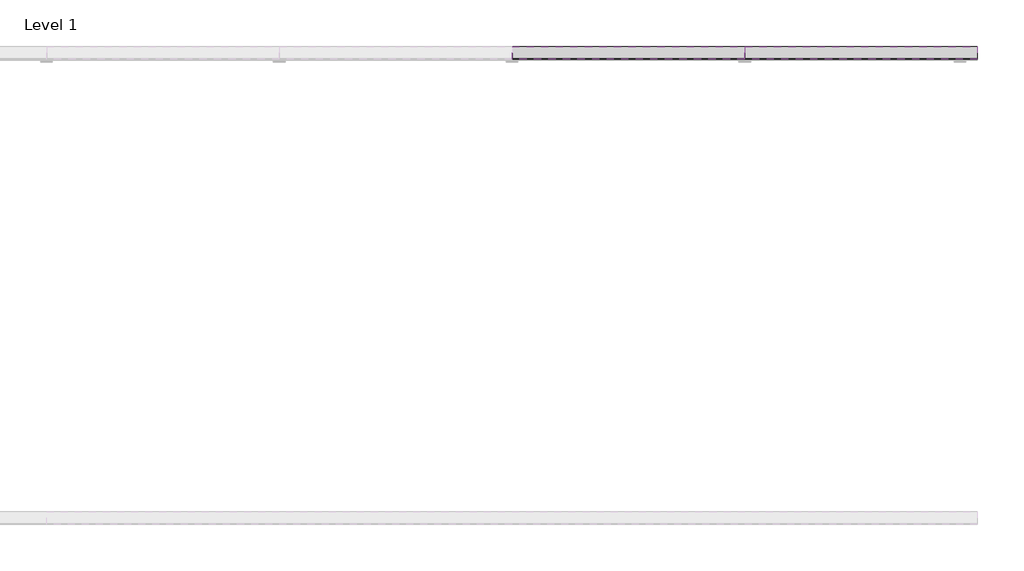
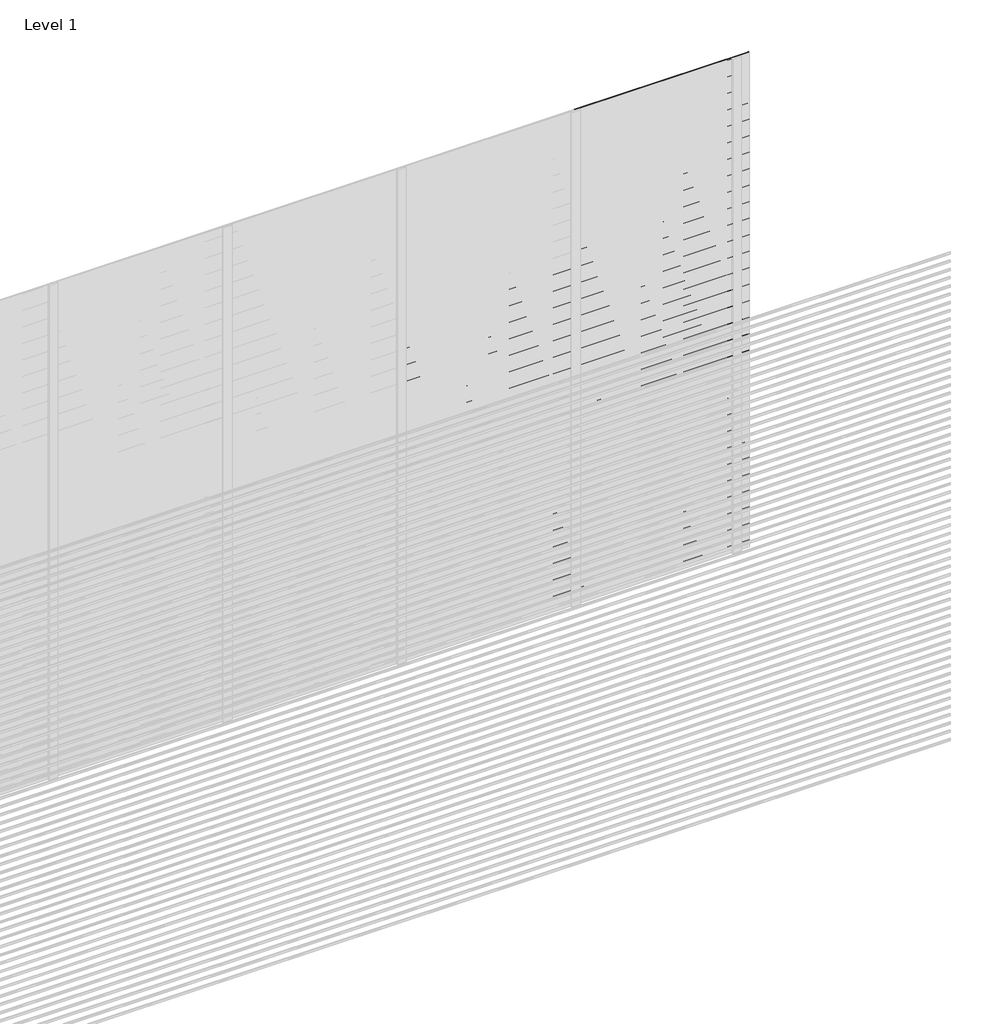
# One storey, part 18 of 18: 102 proxies.
"""IFC4 building model written with IfcOpenShell, lengths in millimetres."""

from ifc_helpers import new_model, si_unit, frame, origin, place, context, project, spatial, polyline, outline, extrude, element, save

model = new_model("IFC4")

# Units and contexts
model_context = context("Model", 3, world=origin())
ifc_project = project(units=[si_unit("LENGTHUNIT", "METRE", prefix="MILLI")], contexts=[model_context])

# Site, building, storey
site = spatial("IfcSite", under=ifc_project)
building = spatial("IfcBuilding", under=site)
storey = spatial("IfcBuildingStorey", under=building, Name="Level 1", Elevation=0.0)

# Proxies
placement = place(None, origin())
element("IfcBuildingElementProxy", 1, Name="Wall Sweeps", at=placement, inside=storey, context=model_context, shape_type="SweptSolid", body=[
    extrude(outline(polyline([(5.0, 2100.0), (5.0, 2091.0744429), (57.0, 2056.0), (57.0, 2050.0), (3.0, 2086.4234599), (3.0, 2100.0), (5.0, 2100.0)])), frame((4000.0, 0.0, 0.0), z_axis=(1.0, 0.0, 0.0), x_axis=(0.0, 1.0, 0.0)), (0.0, 0.0, 1.0), 1000.0),
])
element("IfcBuildingElementProxy", 2, Name="Wall Sweeps", at=placement, inside=storey, context=model_context, shape_type="SweptSolid", body=[
    extrude(outline(polyline([(5.0, 2050.0), (5.0, 2041.0744429), (57.0, 2006.0), (57.0, 2000.0), (3.0, 2036.4234599), (3.0, 2050.0), (5.0, 2050.0)])), frame((4000.0, 0.0, 0.0), z_axis=(1.0, 0.0, 0.0), x_axis=(0.0, 1.0, 0.0)), (0.0, 0.0, 1.0), 1000.0),
])
element("IfcBuildingElementProxy", 3, Name="Wall Sweeps", at=placement, inside=storey, context=model_context, shape_type="SweptSolid", body=[
    extrude(outline(polyline([(5.0, 2000.0), (5.0, 1991.0744429), (57.0, 1956.0), (57.0, 1950.0), (3.0, 1986.4234599), (3.0, 2000.0), (5.0, 2000.0)])), frame((4000.0, 0.0, 0.0), z_axis=(1.0, 0.0, 0.0), x_axis=(0.0, 1.0, 0.0)), (0.0, 0.0, 1.0), 1000.0),
])
element("IfcBuildingElementProxy", 4, Name="Wall Sweeps", at=placement, inside=storey, context=model_context, shape_type="SweptSolid", body=[
    extrude(outline(polyline([(5.0, 1950.0), (5.0, 1941.0744429), (57.0, 1906.0), (57.0, 1900.0), (3.0, 1936.4234599), (3.0, 1950.0), (5.0, 1950.0)])), frame((4000.0, 0.0, 0.0), z_axis=(1.0, 0.0, 0.0), x_axis=(0.0, 1.0, 0.0)), (0.0, 0.0, 1.0), 1000.0),
])
element("IfcBuildingElementProxy", 5, Name="Wall Sweeps", at=placement, inside=storey, context=model_context, shape_type="SweptSolid", body=[
    extrude(outline(polyline([(5.0, 1900.0), (5.0, 1891.0744429), (57.0, 1856.0), (57.0, 1850.0), (3.0, 1886.4234599), (3.0, 1900.0), (5.0, 1900.0)])), frame((4000.0, 0.0, 0.0), z_axis=(1.0, 0.0, 0.0), x_axis=(0.0, 1.0, 0.0)), (0.0, 0.0, 1.0), 1000.0),
])
element("IfcBuildingElementProxy", 6, Name="Wall Sweeps", at=placement, inside=storey, context=model_context, shape_type="SweptSolid", body=[
    extrude(outline(polyline([(5.0, 1850.0), (5.0, 1841.0744429), (57.0, 1806.0), (57.0, 1800.0), (3.0, 1836.4234599), (3.0, 1850.0), (5.0, 1850.0)])), frame((4000.0, 0.0, 0.0), z_axis=(1.0, 0.0, 0.0), x_axis=(0.0, 1.0, 0.0)), (0.0, 0.0, 1.0), 1000.0),
])
element("IfcBuildingElementProxy", 7, Name="Wall Sweeps", at=placement, inside=storey, context=model_context, shape_type="SweptSolid", body=[
    extrude(outline(polyline([(5.0, 1800.0), (5.0, 1791.0744429), (57.0, 1756.0), (57.0, 1750.0), (3.0, 1786.4234599), (3.0, 1800.0), (5.0, 1800.0)])), frame((4000.0, 0.0, 0.0), z_axis=(1.0, 0.0, 0.0), x_axis=(0.0, 1.0, 0.0)), (0.0, 0.0, 1.0), 1000.0),
])
element("IfcBuildingElementProxy", 8, Name="Wall Sweeps", at=placement, inside=storey, context=model_context, shape_type="SweptSolid", body=[
    extrude(outline(polyline([(5.0, 1750.0), (5.0, 1741.0744429), (57.0, 1706.0), (57.0, 1700.0), (3.0, 1736.4234599), (3.0, 1750.0), (5.0, 1750.0)])), frame((4000.0, 0.0, 0.0), z_axis=(1.0, 0.0, 0.0), x_axis=(0.0, 1.0, 0.0)), (0.0, 0.0, 1.0), 1000.0),
])
element("IfcBuildingElementProxy", 9, Name="Wall Sweeps", at=placement, inside=storey, context=model_context, shape_type="SweptSolid", body=[
    extrude(outline(polyline([(5.0, 1700.0), (5.0, 1691.0744429), (57.0, 1656.0), (57.0, 1650.0), (3.0, 1686.4234599), (3.0, 1700.0), (5.0, 1700.0)])), frame((4000.0, 0.0, 0.0), z_axis=(1.0, 0.0, 0.0), x_axis=(0.0, 1.0, 0.0)), (0.0, 0.0, 1.0), 1000.0),
])
element("IfcBuildingElementProxy", 10, Name="Wall Sweeps", at=placement, inside=storey, context=model_context, shape_type="SweptSolid", body=[
    extrude(outline(polyline([(5.0, 1650.0), (5.0, 1641.0744429), (57.0, 1606.0), (57.0, 1600.0), (3.0, 1636.4234599), (3.0, 1650.0), (5.0, 1650.0)])), frame((4000.0, 0.0, 0.0), z_axis=(1.0, 0.0, 0.0), x_axis=(0.0, 1.0, 0.0)), (0.0, 0.0, 1.0), 1000.0),
])
element("IfcBuildingElementProxy", 11, Name="Wall Sweeps", at=placement, inside=storey, context=model_context, shape_type="SweptSolid", body=[
    extrude(outline(polyline([(5.0, 1600.0), (5.0, 1591.0744429), (57.0, 1556.0), (57.0, 1550.0), (3.0, 1586.4234599), (3.0, 1600.0), (5.0, 1600.0)])), frame((4000.0, 0.0, 0.0), z_axis=(1.0, 0.0, 0.0), x_axis=(0.0, 1.0, 0.0)), (0.0, 0.0, 1.0), 1000.0),
])
element("IfcBuildingElementProxy", 12, Name="Wall Sweeps", at=placement, inside=storey, context=model_context, shape_type="SweptSolid", body=[
    extrude(outline(polyline([(5.0, 1550.0), (5.0, 1541.0744429), (57.0, 1506.0), (57.0, 1500.0), (3.0, 1536.4234599), (3.0, 1550.0), (5.0, 1550.0)])), frame((4000.0, 0.0, 0.0), z_axis=(1.0, 0.0, 0.0), x_axis=(0.0, 1.0, 0.0)), (0.0, 0.0, 1.0), 1000.0),
])
element("IfcBuildingElementProxy", 13, Name="Wall Sweeps", at=placement, inside=storey, context=model_context, shape_type="SweptSolid", body=[
    extrude(outline(polyline([(5.0, 1500.0), (5.0, 1491.0744429), (57.0, 1456.0), (57.0, 1450.0), (3.0, 1486.4234599), (3.0, 1500.0), (5.0, 1500.0)])), frame((4000.0, 0.0, 0.0), z_axis=(1.0, 0.0, 0.0), x_axis=(0.0, 1.0, 0.0)), (0.0, 0.0, 1.0), 1000.0),
])
element("IfcBuildingElementProxy", 14, Name="Wall Sweeps", at=placement, inside=storey, context=model_context, shape_type="SweptSolid", body=[
    extrude(outline(polyline([(5.0, 1450.0), (5.0, 1441.0744429), (57.0, 1406.0), (57.0, 1400.0), (3.0, 1436.4234599), (3.0, 1450.0), (5.0, 1450.0)])), frame((4000.0, 0.0, 0.0), z_axis=(1.0, 0.0, 0.0), x_axis=(0.0, 1.0, 0.0)), (0.0, 0.0, 1.0), 1000.0),
])
element("IfcBuildingElementProxy", 15, Name="Wall Sweeps", at=placement, inside=storey, context=model_context, shape_type="SweptSolid", body=[
    extrude(outline(polyline([(5.0, 1400.0), (5.0, 1391.0744429), (57.0, 1356.0), (57.0, 1350.0), (3.0, 1386.4234599), (3.0, 1400.0), (5.0, 1400.0)])), frame((4000.0, 0.0, 0.0), z_axis=(1.0, 0.0, 0.0), x_axis=(0.0, 1.0, 0.0)), (0.0, 0.0, 1.0), 1000.0),
])
element("IfcBuildingElementProxy", 16, Name="Wall Sweeps", at=placement, inside=storey, context=model_context, shape_type="SweptSolid", body=[
    extrude(outline(polyline([(5.0, 1350.0), (5.0, 1341.0744429), (57.0, 1306.0), (57.0, 1300.0), (3.0, 1336.4234599), (3.0, 1350.0), (5.0, 1350.0)])), frame((4000.0, 0.0, 0.0), z_axis=(1.0, 0.0, 0.0), x_axis=(0.0, 1.0, 0.0)), (0.0, 0.0, 1.0), 1000.0),
])
element("IfcBuildingElementProxy", 17, Name="Wall Sweeps", at=placement, inside=storey, context=model_context, shape_type="SweptSolid", body=[
    extrude(outline(polyline([(5.0, 1300.0), (5.0, 1291.0744429), (57.0, 1256.0), (57.0, 1250.0), (3.0, 1286.4234599), (3.0, 1300.0), (5.0, 1300.0)])), frame((4000.0, 0.0, 0.0), z_axis=(1.0, 0.0, 0.0), x_axis=(0.0, 1.0, 0.0)), (0.0, 0.0, 1.0), 1000.0),
])
element("IfcBuildingElementProxy", 18, Name="Wall Sweeps", at=placement, inside=storey, context=model_context, shape_type="SweptSolid", body=[
    extrude(outline(polyline([(5.0, 1250.0), (5.0, 1241.0744429), (57.0, 1206.0), (57.0, 1200.0), (3.0, 1236.4234599), (3.0, 1250.0), (5.0, 1250.0)])), frame((4000.0, 0.0, 0.0), z_axis=(1.0, 0.0, 0.0), x_axis=(0.0, 1.0, 0.0)), (0.0, 0.0, 1.0), 1000.0),
])
element("IfcBuildingElementProxy", 19, Name="Wall Sweeps", at=placement, inside=storey, context=model_context, shape_type="SweptSolid", body=[
    extrude(outline(polyline([(5.0, 1200.0), (5.0, 1191.0744429), (57.0, 1156.0), (57.0, 1150.0), (3.0, 1186.4234599), (3.0, 1200.0), (5.0, 1200.0)])), frame((4000.0, 0.0, 0.0), z_axis=(1.0, 0.0, 0.0), x_axis=(0.0, 1.0, 0.0)), (0.0, 0.0, 1.0), 1000.0),
])
element("IfcBuildingElementProxy", 20, Name="Wall Sweeps", at=placement, inside=storey, context=model_context, shape_type="SweptSolid", body=[
    extrude(outline(polyline([(5.0, 1150.0), (5.0, 1141.0744429), (57.0, 1106.0), (57.0, 1100.0), (3.0, 1136.4234599), (3.0, 1150.0), (5.0, 1150.0)])), frame((4000.0, 0.0, 0.0), z_axis=(1.0, 0.0, 0.0), x_axis=(0.0, 1.0, 0.0)), (0.0, 0.0, 1.0), 1000.0),
])
element("IfcBuildingElementProxy", 21, Name="Wall Sweeps", at=placement, inside=storey, context=model_context, shape_type="SweptSolid", body=[
    extrude(outline(polyline([(5.0, 1100.0), (5.0, 1091.0744429), (57.0, 1056.0), (57.0, 1050.0), (3.0, 1086.4234599), (3.0, 1100.0), (5.0, 1100.0)])), frame((4000.0, 0.0, 0.0), z_axis=(1.0, 0.0, 0.0), x_axis=(0.0, 1.0, 0.0)), (0.0, 0.0, 1.0), 1000.0),
])
element("IfcBuildingElementProxy", 22, Name="Wall Sweeps", at=placement, inside=storey, context=model_context, shape_type="SweptSolid", body=[
    extrude(outline(polyline([(5.0, 1050.0), (5.0, 1041.0744429), (57.0, 1006.0), (57.0, 1000.0), (3.0, 1036.4234599), (3.0, 1050.0), (5.0, 1050.0)])), frame((4000.0, 0.0, 0.0), z_axis=(1.0, 0.0, 0.0), x_axis=(0.0, 1.0, 0.0)), (0.0, 0.0, 1.0), 1000.0),
])
element("IfcBuildingElementProxy", 23, Name="Wall Sweeps", at=placement, inside=storey, context=model_context, shape_type="SweptSolid", body=[
    extrude(outline(polyline([(5.0, 1000.0), (5.0, 991.0744429), (57.0, 956.0), (57.0, 950.0), (3.0, 986.4234599), (3.0, 1000.0), (5.0, 1000.0)])), frame((4000.0, 0.0, 0.0), z_axis=(1.0, 0.0, 0.0), x_axis=(0.0, 1.0, 0.0)), (0.0, 0.0, 1.0), 1000.0),
])
element("IfcBuildingElementProxy", 24, Name="Wall Sweeps", at=placement, inside=storey, context=model_context, shape_type="SweptSolid", body=[
    extrude(outline(polyline([(5.0, 950.0), (5.0, 941.0744429), (57.0, 906.0), (57.0, 900.0), (3.0, 936.4234599), (3.0, 950.0), (5.0, 950.0)])), frame((4000.0, 0.0, 0.0), z_axis=(1.0, 0.0, 0.0), x_axis=(0.0, 1.0, 0.0)), (0.0, 0.0, 1.0), 1000.0),
])
element("IfcBuildingElementProxy", 25, Name="Wall Sweeps", at=placement, inside=storey, context=model_context, shape_type="SweptSolid", body=[
    extrude(outline(polyline([(5.0, 900.0), (5.0, 891.0744429), (57.0, 856.0), (57.0, 850.0), (3.0, 886.4234599), (3.0, 900.0), (5.0, 900.0)])), frame((4000.0, 0.0, 0.0), z_axis=(1.0, 0.0, 0.0), x_axis=(0.0, 1.0, 0.0)), (0.0, 0.0, 1.0), 1000.0),
])
element("IfcBuildingElementProxy", 26, Name="Wall Sweeps", at=placement, inside=storey, context=model_context, shape_type="SweptSolid", body=[
    extrude(outline(polyline([(5.0, 850.0), (5.0, 841.0744429), (57.0, 806.0), (57.0, 800.0), (3.0, 836.4234599), (3.0, 850.0), (5.0, 850.0)])), frame((4000.0, 0.0, 0.0), z_axis=(1.0, 0.0, 0.0), x_axis=(0.0, 1.0, 0.0)), (0.0, 0.0, 1.0), 1000.0),
])
element("IfcBuildingElementProxy", 27, Name="Wall Sweeps", at=placement, inside=storey, context=model_context, shape_type="SweptSolid", body=[
    extrude(outline(polyline([(5.0, 800.0), (5.0, 791.0744429), (57.0, 756.0), (57.0, 750.0), (3.0, 786.4234599), (3.0, 800.0), (5.0, 800.0)])), frame((4000.0, 0.0, 0.0), z_axis=(1.0, 0.0, 0.0), x_axis=(0.0, 1.0, 0.0)), (0.0, 0.0, 1.0), 1000.0),
])
element("IfcBuildingElementProxy", 28, Name="Wall Sweeps", at=placement, inside=storey, context=model_context, shape_type="SweptSolid", body=[
    extrude(outline(polyline([(5.0, 750.0), (5.0, 741.0744429), (57.0, 706.0), (57.0, 700.0), (3.0, 736.4234599), (3.0, 750.0), (5.0, 750.0)])), frame((4000.0, 0.0, 0.0), z_axis=(1.0, 0.0, 0.0), x_axis=(0.0, 1.0, 0.0)), (0.0, 0.0, 1.0), 1000.0),
])
element("IfcBuildingElementProxy", 29, Name="Wall Sweeps", at=placement, inside=storey, context=model_context, shape_type="SweptSolid", body=[
    extrude(outline(polyline([(5.0, 700.0), (5.0, 691.0744429), (57.0, 656.0), (57.0, 650.0), (3.0, 686.4234599), (3.0, 700.0), (5.0, 700.0)])), frame((4000.0, 0.0, 0.0), z_axis=(1.0, 0.0, 0.0), x_axis=(0.0, 1.0, 0.0)), (0.0, 0.0, 1.0), 1000.0),
])
element("IfcBuildingElementProxy", 30, Name="Wall Sweeps", at=placement, inside=storey, context=model_context, shape_type="SweptSolid", body=[
    extrude(outline(polyline([(5.0, 650.0), (5.0, 641.0744429), (57.0, 606.0), (57.0, 600.0), (3.0, 636.4234599), (3.0, 650.0), (5.0, 650.0)])), frame((4000.0, 0.0, 0.0), z_axis=(1.0, 0.0, 0.0), x_axis=(0.0, 1.0, 0.0)), (0.0, 0.0, 1.0), 1000.0),
])
element("IfcBuildingElementProxy", 31, Name="Wall Sweeps", at=placement, inside=storey, context=model_context, shape_type="SweptSolid", body=[
    extrude(outline(polyline([(5.0, 600.0), (5.0, 591.0744429), (57.0, 556.0), (57.0, 550.0), (3.0, 586.4234599), (3.0, 600.0), (5.0, 600.0)])), frame((4000.0, 0.0, 0.0), z_axis=(1.0, 0.0, 0.0), x_axis=(0.0, 1.0, 0.0)), (0.0, 0.0, 1.0), 1000.0),
])
element("IfcBuildingElementProxy", 32, Name="Wall Sweeps", at=placement, inside=storey, context=model_context, shape_type="SweptSolid", body=[
    extrude(outline(polyline([(5.0, 550.0), (5.0, 541.0744429), (57.0, 506.0), (57.0, 500.0), (3.0, 536.4234599), (3.0, 550.0), (5.0, 550.0)])), frame((4000.0, 0.0, 0.0), z_axis=(1.0, 0.0, 0.0), x_axis=(0.0, 1.0, 0.0)), (0.0, 0.0, 1.0), 1000.0),
])
element("IfcBuildingElementProxy", 33, Name="Wall Sweeps", at=placement, inside=storey, context=model_context, shape_type="SweptSolid", body=[
    extrude(outline(polyline([(5.0, 500.0), (5.0, 491.0744429), (57.0, 456.0), (57.0, 450.0), (3.0, 486.4234599), (3.0, 500.0), (5.0, 500.0)])), frame((4000.0, 0.0, 0.0), z_axis=(1.0, 0.0, 0.0), x_axis=(0.0, 1.0, 0.0)), (0.0, 0.0, 1.0), 1000.0),
])
element("IfcBuildingElementProxy", 34, Name="Wall Sweeps", at=placement, inside=storey, context=model_context, shape_type="SweptSolid", body=[
    extrude(outline(polyline([(5.0, 450.0), (5.0, 441.0744429), (57.0, 406.0), (57.0, 400.0), (3.0, 436.4234599), (3.0, 450.0), (5.0, 450.0)])), frame((4000.0, 0.0, 0.0), z_axis=(1.0, 0.0, 0.0), x_axis=(0.0, 1.0, 0.0)), (0.0, 0.0, 1.0), 1000.0),
])
element("IfcBuildingElementProxy", 35, Name="Wall Sweeps", at=placement, inside=storey, context=model_context, shape_type="SweptSolid", body=[
    extrude(outline(polyline([(5.0, 400.0), (5.0, 391.0744429), (57.0, 356.0), (57.0, 350.0), (3.0, 386.4234599), (3.0, 400.0), (5.0, 400.0)])), frame((4000.0, 0.0, 0.0), z_axis=(1.0, 0.0, 0.0), x_axis=(0.0, 1.0, 0.0)), (0.0, 0.0, 1.0), 1000.0),
])
element("IfcBuildingElementProxy", 36, Name="Wall Sweeps", at=placement, inside=storey, context=model_context, shape_type="SweptSolid", body=[
    extrude(outline(polyline([(5.0, 350.0), (5.0, 341.0744429), (57.0, 306.0), (57.0, 300.0), (3.0, 336.4234599), (3.0, 350.0), (5.0, 350.0)])), frame((4000.0, 0.0, 0.0), z_axis=(1.0, 0.0, 0.0), x_axis=(0.0, 1.0, 0.0)), (0.0, 0.0, 1.0), 1000.0),
])
element("IfcBuildingElementProxy", 37, Name="Wall Sweeps", at=placement, inside=storey, context=model_context, shape_type="SweptSolid", body=[
    extrude(outline(polyline([(5.0, 300.0), (5.0, 291.0744429), (57.0, 256.0), (57.0, 250.0), (3.0, 286.4234599), (3.0, 300.0), (5.0, 300.0)])), frame((4000.0, 0.0, 0.0), z_axis=(1.0, 0.0, 0.0), x_axis=(0.0, 1.0, 0.0)), (0.0, 0.0, 1.0), 1000.0),
])
element("IfcBuildingElementProxy", 38, Name="Wall Sweeps", at=placement, inside=storey, context=model_context, shape_type="SweptSolid", body=[
    extrude(outline(polyline([(5.0, 250.0), (5.0, 241.0744429), (57.0, 206.0), (57.0, 200.0), (3.0, 236.4234599), (3.0, 250.0), (5.0, 250.0)])), frame((4000.0, 0.0, 0.0), z_axis=(1.0, 0.0, 0.0), x_axis=(0.0, 1.0, 0.0)), (0.0, 0.0, 1.0), 1000.0),
])
element("IfcBuildingElementProxy", 39, Name="Wall Sweeps", at=placement, inside=storey, context=model_context, shape_type="SweptSolid", body=[
    extrude(outline(polyline([(5.0, 200.0), (5.0, 191.0744429), (57.0, 156.0), (57.0, 150.0), (3.0, 186.4234599), (3.0, 200.0), (5.0, 200.0)])), frame((4000.0, 0.0, 0.0), z_axis=(1.0, 0.0, 0.0), x_axis=(0.0, 1.0, 0.0)), (0.0, 0.0, 1.0), 1000.0),
])
element("IfcBuildingElementProxy", 40, Name="Wall Sweeps", at=placement, inside=storey, context=model_context, shape_type="SweptSolid", body=[
    extrude(outline(polyline([(5.0, 150.0), (5.0, 141.0744429), (57.0, 106.0), (57.0, 100.0), (3.0, 136.4234599), (3.0, 150.0), (5.0, 150.0)])), frame((4000.0, 0.0, 0.0), z_axis=(1.0, 0.0, 0.0), x_axis=(0.0, 1.0, 0.0)), (0.0, 0.0, 1.0), 1000.0),
])
element("IfcBuildingElementProxy", 41, Name="Wall Sweeps", at=placement, inside=storey, context=model_context, shape_type="SweptSolid", body=[
    extrude(outline(polyline([(5.0, 100.0), (5.0, 91.0744429), (57.0, 56.0), (57.0, 50.0), (3.0, 86.4234599), (3.0, 100.0), (5.0, 100.0)])), frame((4000.0, 0.0, 0.0), z_axis=(1.0, 0.0, 0.0), x_axis=(0.0, 1.0, 0.0)), (0.0, 0.0, 1.0), 1000.0),
])
element("IfcBuildingElementProxy", 42, Name="Wall Sweeps", at=placement, inside=storey, context=model_context, shape_type="SweptSolid", body=[
    extrude(outline(polyline([(5.0, 50.0), (5.0, 41.0744429), (57.0, 6.0), (57.0, 0.0), (3.0, 36.4234599), (3.0, 50.0), (5.0, 50.0)])), frame((4000.0, 0.0, 0.0), z_axis=(1.0, 0.0, 0.0), x_axis=(0.0, 1.0, 0.0)), (0.0, 0.0, 1.0), 1000.0),
])
element("IfcBuildingElementProxy", 43, Name="Wall Sweeps", at=placement, inside=storey, context=model_context, shape_type="SweptSolid", body=[
    extrude(outline(polyline([(5.0, 3000.0), (5.0, 2991.0744429), (57.0, 2956.0), (57.0, 2950.0), (3.0, 2986.4234599), (3.0, 3000.0), (5.0, 3000.0)])), frame((5000.0, 0.0, 0.0), z_axis=(1.0, 0.0, 0.0), x_axis=(0.0, 1.0, 0.0)), (0.0, 0.0, 1.0), 1000.0),
])
element("IfcBuildingElementProxy", 44, Name="Wall Sweeps", at=placement, inside=storey, context=model_context, shape_type="SweptSolid", body=[
    extrude(outline(polyline([(5.0, 2950.0), (5.0, 2941.0744429), (57.0, 2906.0), (57.0, 2900.0), (3.0, 2936.4234599), (3.0, 2950.0), (5.0, 2950.0)])), frame((5000.0, 0.0, 0.0), z_axis=(1.0, 0.0, 0.0), x_axis=(0.0, 1.0, 0.0)), (0.0, 0.0, 1.0), 1000.0),
])
element("IfcBuildingElementProxy", 45, Name="Wall Sweeps", at=placement, inside=storey, context=model_context, shape_type="SweptSolid", body=[
    extrude(outline(polyline([(5.0, 2900.0), (5.0, 2891.0744429), (57.0, 2856.0), (57.0, 2850.0), (3.0, 2886.4234599), (3.0, 2900.0), (5.0, 2900.0)])), frame((5000.0, 0.0, 0.0), z_axis=(1.0, 0.0, 0.0), x_axis=(0.0, 1.0, 0.0)), (0.0, 0.0, 1.0), 1000.0),
])
element("IfcBuildingElementProxy", 46, Name="Wall Sweeps", at=placement, inside=storey, context=model_context, shape_type="SweptSolid", body=[
    extrude(outline(polyline([(5.0, 2850.0), (5.0, 2841.0744429), (57.0, 2806.0), (57.0, 2800.0), (3.0, 2836.4234599), (3.0, 2850.0), (5.0, 2850.0)])), frame((5000.0, 0.0, 0.0), z_axis=(1.0, 0.0, 0.0), x_axis=(0.0, 1.0, 0.0)), (0.0, 0.0, 1.0), 1000.0),
])
element("IfcBuildingElementProxy", 47, Name="Wall Sweeps", at=placement, inside=storey, context=model_context, shape_type="SweptSolid", body=[
    extrude(outline(polyline([(5.0, 2800.0), (5.0, 2791.0744429), (57.0, 2756.0), (57.0, 2750.0), (3.0, 2786.4234599), (3.0, 2800.0), (5.0, 2800.0)])), frame((5000.0, 0.0, 0.0), z_axis=(1.0, 0.0, 0.0), x_axis=(0.0, 1.0, 0.0)), (0.0, 0.0, 1.0), 1000.0),
])
element("IfcBuildingElementProxy", 48, Name="Wall Sweeps", at=placement, inside=storey, context=model_context, shape_type="SweptSolid", body=[
    extrude(outline(polyline([(5.0, 2750.0), (5.0, 2741.0744429), (57.0, 2706.0), (57.0, 2700.0), (3.0, 2736.4234599), (3.0, 2750.0), (5.0, 2750.0)])), frame((5000.0, 0.0, 0.0), z_axis=(1.0, 0.0, 0.0), x_axis=(0.0, 1.0, 0.0)), (0.0, 0.0, 1.0), 1000.0),
])
element("IfcBuildingElementProxy", 49, Name="Wall Sweeps", at=placement, inside=storey, context=model_context, shape_type="SweptSolid", body=[
    extrude(outline(polyline([(5.0, 2700.0), (5.0, 2691.0744429), (57.0, 2656.0), (57.0, 2650.0), (3.0, 2686.4234599), (3.0, 2700.0), (5.0, 2700.0)])), frame((5000.0, 0.0, 0.0), z_axis=(1.0, 0.0, 0.0), x_axis=(0.0, 1.0, 0.0)), (0.0, 0.0, 1.0), 1000.0),
])
element("IfcBuildingElementProxy", 50, Name="Wall Sweeps", at=placement, inside=storey, context=model_context, shape_type="SweptSolid", body=[
    extrude(outline(polyline([(5.0, 2650.0), (5.0, 2641.0744429), (57.0, 2606.0), (57.0, 2600.0), (3.0, 2636.4234599), (3.0, 2650.0), (5.0, 2650.0)])), frame((5000.0, 0.0, 0.0), z_axis=(1.0, 0.0, 0.0), x_axis=(0.0, 1.0, 0.0)), (0.0, 0.0, 1.0), 1000.0),
])
element("IfcBuildingElementProxy", 51, Name="Wall Sweeps", at=placement, inside=storey, context=model_context, shape_type="SweptSolid", body=[
    extrude(outline(polyline([(5.0, 2600.0), (5.0, 2591.0744429), (57.0, 2556.0), (57.0, 2550.0), (3.0, 2586.4234599), (3.0, 2600.0), (5.0, 2600.0)])), frame((5000.0, 0.0, 0.0), z_axis=(1.0, 0.0, 0.0), x_axis=(0.0, 1.0, 0.0)), (0.0, 0.0, 1.0), 1000.0),
])
element("IfcBuildingElementProxy", 52, Name="Wall Sweeps", at=placement, inside=storey, context=model_context, shape_type="SweptSolid", body=[
    extrude(outline(polyline([(5.0, 2550.0), (5.0, 2541.0744429), (57.0, 2506.0), (57.0, 2500.0), (3.0, 2536.4234599), (3.0, 2550.0), (5.0, 2550.0)])), frame((5000.0, 0.0, 0.0), z_axis=(1.0, 0.0, 0.0), x_axis=(0.0, 1.0, 0.0)), (0.0, 0.0, 1.0), 1000.0),
])
element("IfcBuildingElementProxy", 53, Name="Wall Sweeps", at=placement, inside=storey, context=model_context, shape_type="SweptSolid", body=[
    extrude(outline(polyline([(5.0, 2500.0), (5.0, 2491.0744429), (57.0, 2456.0), (57.0, 2450.0), (3.0, 2486.4234599), (3.0, 2500.0), (5.0, 2500.0)])), frame((5000.0, 0.0, 0.0), z_axis=(1.0, 0.0, 0.0), x_axis=(0.0, 1.0, 0.0)), (0.0, 0.0, 1.0), 1000.0),
])
element("IfcBuildingElementProxy", 54, Name="Wall Sweeps", at=placement, inside=storey, context=model_context, shape_type="SweptSolid", body=[
    extrude(outline(polyline([(5.0, 2450.0), (5.0, 2441.0744429), (57.0, 2406.0), (57.0, 2400.0), (3.0, 2436.4234599), (3.0, 2450.0), (5.0, 2450.0)])), frame((5000.0, 0.0, 0.0), z_axis=(1.0, 0.0, 0.0), x_axis=(0.0, 1.0, 0.0)), (0.0, 0.0, 1.0), 1000.0),
])
element("IfcBuildingElementProxy", 55, Name="Wall Sweeps", at=placement, inside=storey, context=model_context, shape_type="SweptSolid", body=[
    extrude(outline(polyline([(5.0, 2400.0), (5.0, 2391.0744429), (57.0, 2356.0), (57.0, 2350.0), (3.0, 2386.4234599), (3.0, 2400.0), (5.0, 2400.0)])), frame((5000.0, 0.0, 0.0), z_axis=(1.0, 0.0, 0.0), x_axis=(0.0, 1.0, 0.0)), (0.0, 0.0, 1.0), 1000.0),
])
element("IfcBuildingElementProxy", 56, Name="Wall Sweeps", at=placement, inside=storey, context=model_context, shape_type="SweptSolid", body=[
    extrude(outline(polyline([(5.0, 2350.0), (5.0, 2341.0744429), (57.0, 2306.0), (57.0, 2300.0), (3.0, 2336.4234599), (3.0, 2350.0), (5.0, 2350.0)])), frame((5000.0, 0.0, 0.0), z_axis=(1.0, 0.0, 0.0), x_axis=(0.0, 1.0, 0.0)), (0.0, 0.0, 1.0), 1000.0),
])
element("IfcBuildingElementProxy", 57, Name="Wall Sweeps", at=placement, inside=storey, context=model_context, shape_type="SweptSolid", body=[
    extrude(outline(polyline([(5.0, 2300.0), (5.0, 2291.0744429), (57.0, 2256.0), (57.0, 2250.0), (3.0, 2286.4234599), (3.0, 2300.0), (5.0, 2300.0)])), frame((5000.0, 0.0, 0.0), z_axis=(1.0, 0.0, 0.0), x_axis=(0.0, 1.0, 0.0)), (0.0, 0.0, 1.0), 1000.0),
])
element("IfcBuildingElementProxy", 58, Name="Wall Sweeps", at=placement, inside=storey, context=model_context, shape_type="SweptSolid", body=[
    extrude(outline(polyline([(5.0, 2250.0), (5.0, 2241.0744429), (57.0, 2206.0), (57.0, 2200.0), (3.0, 2236.4234599), (3.0, 2250.0), (5.0, 2250.0)])), frame((5000.0, 0.0, 0.0), z_axis=(1.0, 0.0, 0.0), x_axis=(0.0, 1.0, 0.0)), (0.0, 0.0, 1.0), 1000.0),
])
element("IfcBuildingElementProxy", 59, Name="Wall Sweeps", at=placement, inside=storey, context=model_context, shape_type="SweptSolid", body=[
    extrude(outline(polyline([(5.0, 2200.0), (5.0, 2191.0744429), (57.0, 2156.0), (57.0, 2150.0), (3.0, 2186.4234599), (3.0, 2200.0), (5.0, 2200.0)])), frame((5000.0, 0.0, 0.0), z_axis=(1.0, 0.0, 0.0), x_axis=(0.0, 1.0, 0.0)), (0.0, 0.0, 1.0), 1000.0),
])
element("IfcBuildingElementProxy", 60, Name="Wall Sweeps", at=placement, inside=storey, context=model_context, shape_type="SweptSolid", body=[
    extrude(outline(polyline([(5.0, 2150.0), (5.0, 2141.0744429), (57.0, 2106.0), (57.0, 2100.0), (3.0, 2136.4234599), (3.0, 2150.0), (5.0, 2150.0)])), frame((5000.0, 0.0, 0.0), z_axis=(1.0, 0.0, 0.0), x_axis=(0.0, 1.0, 0.0)), (0.0, 0.0, 1.0), 1000.0),
])
element("IfcBuildingElementProxy", 61, Name="Wall Sweeps", at=placement, inside=storey, context=model_context, shape_type="SweptSolid", body=[
    extrude(outline(polyline([(5.0, 2100.0), (5.0, 2091.0744429), (57.0, 2056.0), (57.0, 2050.0), (3.0, 2086.4234599), (3.0, 2100.0), (5.0, 2100.0)])), frame((5000.0, 0.0, 0.0), z_axis=(1.0, 0.0, 0.0), x_axis=(0.0, 1.0, 0.0)), (0.0, 0.0, 1.0), 1000.0),
])
element("IfcBuildingElementProxy", 62, Name="Wall Sweeps", at=placement, inside=storey, context=model_context, shape_type="SweptSolid", body=[
    extrude(outline(polyline([(5.0, 2050.0), (5.0, 2041.0744429), (57.0, 2006.0), (57.0, 2000.0), (3.0, 2036.4234599), (3.0, 2050.0), (5.0, 2050.0)])), frame((5000.0, 0.0, 0.0), z_axis=(1.0, 0.0, 0.0), x_axis=(0.0, 1.0, 0.0)), (0.0, 0.0, 1.0), 1000.0),
])
element("IfcBuildingElementProxy", 63, Name="Wall Sweeps", at=placement, inside=storey, context=model_context, shape_type="SweptSolid", body=[
    extrude(outline(polyline([(5.0, 2000.0), (5.0, 1991.0744429), (57.0, 1956.0), (57.0, 1950.0), (3.0, 1986.4234599), (3.0, 2000.0), (5.0, 2000.0)])), frame((5000.0, 0.0, 0.0), z_axis=(1.0, 0.0, 0.0), x_axis=(0.0, 1.0, 0.0)), (0.0, 0.0, 1.0), 1000.0),
])
element("IfcBuildingElementProxy", 64, Name="Wall Sweeps", at=placement, inside=storey, context=model_context, shape_type="SweptSolid", body=[
    extrude(outline(polyline([(5.0, 1950.0), (5.0, 1941.0744429), (57.0, 1906.0), (57.0, 1900.0), (3.0, 1936.4234599), (3.0, 1950.0), (5.0, 1950.0)])), frame((5000.0, 0.0, 0.0), z_axis=(1.0, 0.0, 0.0), x_axis=(0.0, 1.0, 0.0)), (0.0, 0.0, 1.0), 1000.0),
])
element("IfcBuildingElementProxy", 65, Name="Wall Sweeps", at=placement, inside=storey, context=model_context, shape_type="SweptSolid", body=[
    extrude(outline(polyline([(5.0, 1900.0), (5.0, 1891.0744429), (57.0, 1856.0), (57.0, 1850.0), (3.0, 1886.4234599), (3.0, 1900.0), (5.0, 1900.0)])), frame((5000.0, 0.0, 0.0), z_axis=(1.0, 0.0, 0.0), x_axis=(0.0, 1.0, 0.0)), (0.0, 0.0, 1.0), 1000.0),
])
element("IfcBuildingElementProxy", 66, Name="Wall Sweeps", at=placement, inside=storey, context=model_context, shape_type="SweptSolid", body=[
    extrude(outline(polyline([(5.0, 1850.0), (5.0, 1841.0744429), (57.0, 1806.0), (57.0, 1800.0), (3.0, 1836.4234599), (3.0, 1850.0), (5.0, 1850.0)])), frame((5000.0, 0.0, 0.0), z_axis=(1.0, 0.0, 0.0), x_axis=(0.0, 1.0, 0.0)), (0.0, 0.0, 1.0), 1000.0),
])
element("IfcBuildingElementProxy", 67, Name="Wall Sweeps", at=placement, inside=storey, context=model_context, shape_type="SweptSolid", body=[
    extrude(outline(polyline([(5.0, 1800.0), (5.0, 1791.0744429), (57.0, 1756.0), (57.0, 1750.0), (3.0, 1786.4234599), (3.0, 1800.0), (5.0, 1800.0)])), frame((5000.0, 0.0, 0.0), z_axis=(1.0, 0.0, 0.0), x_axis=(0.0, 1.0, 0.0)), (0.0, 0.0, 1.0), 1000.0),
])
element("IfcBuildingElementProxy", 68, Name="Wall Sweeps", at=placement, inside=storey, context=model_context, shape_type="SweptSolid", body=[
    extrude(outline(polyline([(5.0, 1750.0), (5.0, 1741.0744429), (57.0, 1706.0), (57.0, 1700.0), (3.0, 1736.4234599), (3.0, 1750.0), (5.0, 1750.0)])), frame((5000.0, 0.0, 0.0), z_axis=(1.0, 0.0, 0.0), x_axis=(0.0, 1.0, 0.0)), (0.0, 0.0, 1.0), 1000.0),
])
element("IfcBuildingElementProxy", 69, Name="Wall Sweeps", at=placement, inside=storey, context=model_context, shape_type="SweptSolid", body=[
    extrude(outline(polyline([(5.0, 1700.0), (5.0, 1691.0744429), (57.0, 1656.0), (57.0, 1650.0), (3.0, 1686.4234599), (3.0, 1700.0), (5.0, 1700.0)])), frame((5000.0, 0.0, 0.0), z_axis=(1.0, 0.0, 0.0), x_axis=(0.0, 1.0, 0.0)), (0.0, 0.0, 1.0), 1000.0),
])
element("IfcBuildingElementProxy", 70, Name="Wall Sweeps", at=placement, inside=storey, context=model_context, shape_type="SweptSolid", body=[
    extrude(outline(polyline([(5.0, 1650.0), (5.0, 1641.0744429), (57.0, 1606.0), (57.0, 1600.0), (3.0, 1636.4234599), (3.0, 1650.0), (5.0, 1650.0)])), frame((5000.0, 0.0, 0.0), z_axis=(1.0, 0.0, 0.0), x_axis=(0.0, 1.0, 0.0)), (0.0, 0.0, 1.0), 1000.0),
])
element("IfcBuildingElementProxy", 71, Name="Wall Sweeps", at=placement, inside=storey, context=model_context, shape_type="SweptSolid", body=[
    extrude(outline(polyline([(5.0, 1600.0), (5.0, 1591.0744429), (57.0, 1556.0), (57.0, 1550.0), (3.0, 1586.4234599), (3.0, 1600.0), (5.0, 1600.0)])), frame((5000.0, 0.0, 0.0), z_axis=(1.0, 0.0, 0.0), x_axis=(0.0, 1.0, 0.0)), (0.0, 0.0, 1.0), 1000.0),
])
element("IfcBuildingElementProxy", 72, Name="Wall Sweeps", at=placement, inside=storey, context=model_context, shape_type="SweptSolid", body=[
    extrude(outline(polyline([(5.0, 1550.0), (5.0, 1541.0744429), (57.0, 1506.0), (57.0, 1500.0), (3.0, 1536.4234599), (3.0, 1550.0), (5.0, 1550.0)])), frame((5000.0, 0.0, 0.0), z_axis=(1.0, 0.0, 0.0), x_axis=(0.0, 1.0, 0.0)), (0.0, 0.0, 1.0), 1000.0),
])
element("IfcBuildingElementProxy", 73, Name="Wall Sweeps", at=placement, inside=storey, context=model_context, shape_type="SweptSolid", body=[
    extrude(outline(polyline([(5.0, 1500.0), (5.0, 1491.0744429), (57.0, 1456.0), (57.0, 1450.0), (3.0, 1486.4234599), (3.0, 1500.0), (5.0, 1500.0)])), frame((5000.0, 0.0, 0.0), z_axis=(1.0, 0.0, 0.0), x_axis=(0.0, 1.0, 0.0)), (0.0, 0.0, 1.0), 1000.0),
])
element("IfcBuildingElementProxy", 74, Name="Wall Sweeps", at=placement, inside=storey, context=model_context, shape_type="SweptSolid", body=[
    extrude(outline(polyline([(5.0, 1450.0), (5.0, 1441.0744429), (57.0, 1406.0), (57.0, 1400.0), (3.0, 1436.4234599), (3.0, 1450.0), (5.0, 1450.0)])), frame((5000.0, 0.0, 0.0), z_axis=(1.0, 0.0, 0.0), x_axis=(0.0, 1.0, 0.0)), (0.0, 0.0, 1.0), 1000.0),
])
element("IfcBuildingElementProxy", 75, Name="Wall Sweeps", at=placement, inside=storey, context=model_context, shape_type="SweptSolid", body=[
    extrude(outline(polyline([(5.0, 1400.0), (5.0, 1391.0744429), (57.0, 1356.0), (57.0, 1350.0), (3.0, 1386.4234599), (3.0, 1400.0), (5.0, 1400.0)])), frame((5000.0, 0.0, 0.0), z_axis=(1.0, 0.0, 0.0), x_axis=(0.0, 1.0, 0.0)), (0.0, 0.0, 1.0), 1000.0),
])
element("IfcBuildingElementProxy", 76, Name="Wall Sweeps", at=placement, inside=storey, context=model_context, shape_type="SweptSolid", body=[
    extrude(outline(polyline([(5.0, 1350.0), (5.0, 1341.0744429), (57.0, 1306.0), (57.0, 1300.0), (3.0, 1336.4234599), (3.0, 1350.0), (5.0, 1350.0)])), frame((5000.0, 0.0, 0.0), z_axis=(1.0, 0.0, 0.0), x_axis=(0.0, 1.0, 0.0)), (0.0, 0.0, 1.0), 1000.0),
])
element("IfcBuildingElementProxy", 77, Name="Wall Sweeps", at=placement, inside=storey, context=model_context, shape_type="SweptSolid", body=[
    extrude(outline(polyline([(5.0, 1300.0), (5.0, 1291.0744429), (57.0, 1256.0), (57.0, 1250.0), (3.0, 1286.4234599), (3.0, 1300.0), (5.0, 1300.0)])), frame((5000.0, 0.0, 0.0), z_axis=(1.0, 0.0, 0.0), x_axis=(0.0, 1.0, 0.0)), (0.0, 0.0, 1.0), 1000.0),
])
element("IfcBuildingElementProxy", 78, Name="Wall Sweeps", at=placement, inside=storey, context=model_context, shape_type="SweptSolid", body=[
    extrude(outline(polyline([(5.0, 1250.0), (5.0, 1241.0744429), (57.0, 1206.0), (57.0, 1200.0), (3.0, 1236.4234599), (3.0, 1250.0), (5.0, 1250.0)])), frame((5000.0, 0.0, 0.0), z_axis=(1.0, 0.0, 0.0), x_axis=(0.0, 1.0, 0.0)), (0.0, 0.0, 1.0), 1000.0),
])
element("IfcBuildingElementProxy", 79, Name="Wall Sweeps", at=placement, inside=storey, context=model_context, shape_type="SweptSolid", body=[
    extrude(outline(polyline([(5.0, 1200.0), (5.0, 1191.0744429), (57.0, 1156.0), (57.0, 1150.0), (3.0, 1186.4234599), (3.0, 1200.0), (5.0, 1200.0)])), frame((5000.0, 0.0, 0.0), z_axis=(1.0, 0.0, 0.0), x_axis=(0.0, 1.0, 0.0)), (0.0, 0.0, 1.0), 1000.0),
])
element("IfcBuildingElementProxy", 80, Name="Wall Sweeps", at=placement, inside=storey, context=model_context, shape_type="SweptSolid", body=[
    extrude(outline(polyline([(5.0, 1150.0), (5.0, 1141.0744429), (57.0, 1106.0), (57.0, 1100.0), (3.0, 1136.4234599), (3.0, 1150.0), (5.0, 1150.0)])), frame((5000.0, 0.0, 0.0), z_axis=(1.0, 0.0, 0.0), x_axis=(0.0, 1.0, 0.0)), (0.0, 0.0, 1.0), 1000.0),
])
element("IfcBuildingElementProxy", 81, Name="Wall Sweeps", at=placement, inside=storey, context=model_context, shape_type="SweptSolid", body=[
    extrude(outline(polyline([(5.0, 1100.0), (5.0, 1091.0744429), (57.0, 1056.0), (57.0, 1050.0), (3.0, 1086.4234599), (3.0, 1100.0), (5.0, 1100.0)])), frame((5000.0, 0.0, 0.0), z_axis=(1.0, 0.0, 0.0), x_axis=(0.0, 1.0, 0.0)), (0.0, 0.0, 1.0), 1000.0),
])
element("IfcBuildingElementProxy", 82, Name="Wall Sweeps", at=placement, inside=storey, context=model_context, shape_type="SweptSolid", body=[
    extrude(outline(polyline([(5.0, 1050.0), (5.0, 1041.0744429), (57.0, 1006.0), (57.0, 1000.0), (3.0, 1036.4234599), (3.0, 1050.0), (5.0, 1050.0)])), frame((5000.0, 0.0, 0.0), z_axis=(1.0, 0.0, 0.0), x_axis=(0.0, 1.0, 0.0)), (0.0, 0.0, 1.0), 1000.0),
])
element("IfcBuildingElementProxy", 83, Name="Wall Sweeps", at=placement, inside=storey, context=model_context, shape_type="SweptSolid", body=[
    extrude(outline(polyline([(5.0, 1000.0), (5.0, 991.0744429), (57.0, 956.0), (57.0, 950.0), (3.0, 986.4234599), (3.0, 1000.0), (5.0, 1000.0)])), frame((5000.0, 0.0, 0.0), z_axis=(1.0, 0.0, 0.0), x_axis=(0.0, 1.0, 0.0)), (0.0, 0.0, 1.0), 1000.0),
])
element("IfcBuildingElementProxy", 84, Name="Wall Sweeps", at=placement, inside=storey, context=model_context, shape_type="SweptSolid", body=[
    extrude(outline(polyline([(5.0, 950.0), (5.0, 941.0744429), (57.0, 906.0), (57.0, 900.0), (3.0, 936.4234599), (3.0, 950.0), (5.0, 950.0)])), frame((5000.0, 0.0, 0.0), z_axis=(1.0, 0.0, 0.0), x_axis=(0.0, 1.0, 0.0)), (0.0, 0.0, 1.0), 1000.0),
])
element("IfcBuildingElementProxy", 85, Name="Wall Sweeps", at=placement, inside=storey, context=model_context, shape_type="SweptSolid", body=[
    extrude(outline(polyline([(5.0, 900.0), (5.0, 891.0744429), (57.0, 856.0), (57.0, 850.0), (3.0, 886.4234599), (3.0, 900.0), (5.0, 900.0)])), frame((5000.0, 0.0, 0.0), z_axis=(1.0, 0.0, 0.0), x_axis=(0.0, 1.0, 0.0)), (0.0, 0.0, 1.0), 1000.0),
])
element("IfcBuildingElementProxy", 86, Name="Wall Sweeps", at=placement, inside=storey, context=model_context, shape_type="SweptSolid", body=[
    extrude(outline(polyline([(5.0, 850.0), (5.0, 841.0744429), (57.0, 806.0), (57.0, 800.0), (3.0, 836.4234599), (3.0, 850.0), (5.0, 850.0)])), frame((5000.0, 0.0, 0.0), z_axis=(1.0, 0.0, 0.0), x_axis=(0.0, 1.0, 0.0)), (0.0, 0.0, 1.0), 1000.0),
])
element("IfcBuildingElementProxy", 87, Name="Wall Sweeps", at=placement, inside=storey, context=model_context, shape_type="SweptSolid", body=[
    extrude(outline(polyline([(5.0, 800.0), (5.0, 791.0744429), (57.0, 756.0), (57.0, 750.0), (3.0, 786.4234599), (3.0, 800.0), (5.0, 800.0)])), frame((5000.0, 0.0, 0.0), z_axis=(1.0, 0.0, 0.0), x_axis=(0.0, 1.0, 0.0)), (0.0, 0.0, 1.0), 1000.0),
])
element("IfcBuildingElementProxy", 88, Name="Wall Sweeps", at=placement, inside=storey, context=model_context, shape_type="SweptSolid", body=[
    extrude(outline(polyline([(5.0, 750.0), (5.0, 741.0744429), (57.0, 706.0), (57.0, 700.0), (3.0, 736.4234599), (3.0, 750.0), (5.0, 750.0)])), frame((5000.0, 0.0, 0.0), z_axis=(1.0, 0.0, 0.0), x_axis=(0.0, 1.0, 0.0)), (0.0, 0.0, 1.0), 1000.0),
])
element("IfcBuildingElementProxy", 89, Name="Wall Sweeps", at=placement, inside=storey, context=model_context, shape_type="SweptSolid", body=[
    extrude(outline(polyline([(5.0, 700.0), (5.0, 691.0744429), (57.0, 656.0), (57.0, 650.0), (3.0, 686.4234599), (3.0, 700.0), (5.0, 700.0)])), frame((5000.0, 0.0, 0.0), z_axis=(1.0, 0.0, 0.0), x_axis=(0.0, 1.0, 0.0)), (0.0, 0.0, 1.0), 1000.0),
])
element("IfcBuildingElementProxy", 90, Name="Wall Sweeps", at=placement, inside=storey, context=model_context, shape_type="SweptSolid", body=[
    extrude(outline(polyline([(5.0, 650.0), (5.0, 641.0744429), (57.0, 606.0), (57.0, 600.0), (3.0, 636.4234599), (3.0, 650.0), (5.0, 650.0)])), frame((5000.0, 0.0, 0.0), z_axis=(1.0, 0.0, 0.0), x_axis=(0.0, 1.0, 0.0)), (0.0, 0.0, 1.0), 1000.0),
])
element("IfcBuildingElementProxy", 91, Name="Wall Sweeps", at=placement, inside=storey, context=model_context, shape_type="SweptSolid", body=[
    extrude(outline(polyline([(5.0, 600.0), (5.0, 591.0744429), (57.0, 556.0), (57.0, 550.0), (3.0, 586.4234599), (3.0, 600.0), (5.0, 600.0)])), frame((5000.0, 0.0, 0.0), z_axis=(1.0, 0.0, 0.0), x_axis=(0.0, 1.0, 0.0)), (0.0, 0.0, 1.0), 1000.0),
])
element("IfcBuildingElementProxy", 92, Name="Wall Sweeps", at=placement, inside=storey, context=model_context, shape_type="SweptSolid", body=[
    extrude(outline(polyline([(5.0, 550.0), (5.0, 541.0744429), (57.0, 506.0), (57.0, 500.0), (3.0, 536.4234599), (3.0, 550.0), (5.0, 550.0)])), frame((5000.0, 0.0, 0.0), z_axis=(1.0, 0.0, 0.0), x_axis=(0.0, 1.0, 0.0)), (0.0, 0.0, 1.0), 1000.0),
])
element("IfcBuildingElementProxy", 93, Name="Wall Sweeps", at=placement, inside=storey, context=model_context, shape_type="SweptSolid", body=[
    extrude(outline(polyline([(5.0, 500.0), (5.0, 491.0744429), (57.0, 456.0), (57.0, 450.0), (3.0, 486.4234599), (3.0, 500.0), (5.0, 500.0)])), frame((5000.0, 0.0, 0.0), z_axis=(1.0, 0.0, 0.0), x_axis=(0.0, 1.0, 0.0)), (0.0, 0.0, 1.0), 1000.0),
])
element("IfcBuildingElementProxy", 94, Name="Wall Sweeps", at=placement, inside=storey, context=model_context, shape_type="SweptSolid", body=[
    extrude(outline(polyline([(5.0, 450.0), (5.0, 441.0744429), (57.0, 406.0), (57.0, 400.0), (3.0, 436.4234599), (3.0, 450.0), (5.0, 450.0)])), frame((5000.0, 0.0, 0.0), z_axis=(1.0, 0.0, 0.0), x_axis=(0.0, 1.0, 0.0)), (0.0, 0.0, 1.0), 1000.0),
])
element("IfcBuildingElementProxy", 95, Name="Wall Sweeps", at=placement, inside=storey, context=model_context, shape_type="SweptSolid", body=[
    extrude(outline(polyline([(5.0, 400.0), (5.0, 391.0744429), (57.0, 356.0), (57.0, 350.0), (3.0, 386.4234599), (3.0, 400.0), (5.0, 400.0)])), frame((5000.0, 0.0, 0.0), z_axis=(1.0, 0.0, 0.0), x_axis=(0.0, 1.0, 0.0)), (0.0, 0.0, 1.0), 1000.0),
])
element("IfcBuildingElementProxy", 96, Name="Wall Sweeps", at=placement, inside=storey, context=model_context, shape_type="SweptSolid", body=[
    extrude(outline(polyline([(5.0, 350.0), (5.0, 341.0744429), (57.0, 306.0), (57.0, 300.0), (3.0, 336.4234599), (3.0, 350.0), (5.0, 350.0)])), frame((5000.0, 0.0, 0.0), z_axis=(1.0, 0.0, 0.0), x_axis=(0.0, 1.0, 0.0)), (0.0, 0.0, 1.0), 1000.0),
])
element("IfcBuildingElementProxy", 97, Name="Wall Sweeps", at=placement, inside=storey, context=model_context, shape_type="SweptSolid", body=[
    extrude(outline(polyline([(5.0, 300.0), (5.0, 291.0744429), (57.0, 256.0), (57.0, 250.0), (3.0, 286.4234599), (3.0, 300.0), (5.0, 300.0)])), frame((5000.0, 0.0, 0.0), z_axis=(1.0, 0.0, 0.0), x_axis=(0.0, 1.0, 0.0)), (0.0, 0.0, 1.0), 1000.0),
])
element("IfcBuildingElementProxy", 98, Name="Wall Sweeps", at=placement, inside=storey, context=model_context, shape_type="SweptSolid", body=[
    extrude(outline(polyline([(5.0, 250.0), (5.0, 241.0744429), (57.0, 206.0), (57.0, 200.0), (3.0, 236.4234599), (3.0, 250.0), (5.0, 250.0)])), frame((5000.0, 0.0, 0.0), z_axis=(1.0, 0.0, 0.0), x_axis=(0.0, 1.0, 0.0)), (0.0, 0.0, 1.0), 1000.0),
])
element("IfcBuildingElementProxy", 99, Name="Wall Sweeps", at=placement, inside=storey, context=model_context, shape_type="SweptSolid", body=[
    extrude(outline(polyline([(5.0, 200.0), (5.0, 191.0744429), (57.0, 156.0), (57.0, 150.0), (3.0, 186.4234599), (3.0, 200.0), (5.0, 200.0)])), frame((5000.0, 0.0, 0.0), z_axis=(1.0, 0.0, 0.0), x_axis=(0.0, 1.0, 0.0)), (0.0, 0.0, 1.0), 1000.0),
])
element("IfcBuildingElementProxy", 100, Name="Wall Sweeps", at=placement, inside=storey, context=model_context, shape_type="SweptSolid", body=[
    extrude(outline(polyline([(5.0, 150.0), (5.0, 141.0744429), (57.0, 106.0), (57.0, 100.0), (3.0, 136.4234599), (3.0, 150.0), (5.0, 150.0)])), frame((5000.0, 0.0, 0.0), z_axis=(1.0, 0.0, 0.0), x_axis=(0.0, 1.0, 0.0)), (0.0, 0.0, 1.0), 1000.0),
])
element("IfcBuildingElementProxy", 101, Name="Wall Sweeps", at=placement, inside=storey, context=model_context, shape_type="SweptSolid", body=[
    extrude(outline(polyline([(5.0, 100.0), (5.0, 91.0744429), (57.0, 56.0), (57.0, 50.0), (3.0, 86.4234599), (3.0, 100.0), (5.0, 100.0)])), frame((5000.0, 0.0, 0.0), z_axis=(1.0, 0.0, 0.0), x_axis=(0.0, 1.0, 0.0)), (0.0, 0.0, 1.0), 1000.0),
])
element("IfcBuildingElementProxy", 102, Name="Wall Sweeps", at=placement, inside=storey, context=model_context, shape_type="SweptSolid", body=[
    extrude(outline(polyline([(5.0, 50.0), (5.0, 41.0744429), (57.0, 6.0), (57.0, 0.0), (3.0, 36.4234599), (3.0, 50.0), (5.0, 50.0)])), frame((5000.0, 0.0, 0.0), z_axis=(1.0, 0.0, 0.0), x_axis=(0.0, 1.0, 0.0)), (0.0, 0.0, 1.0), 1000.0),
])

save(model, "model.ifc")
